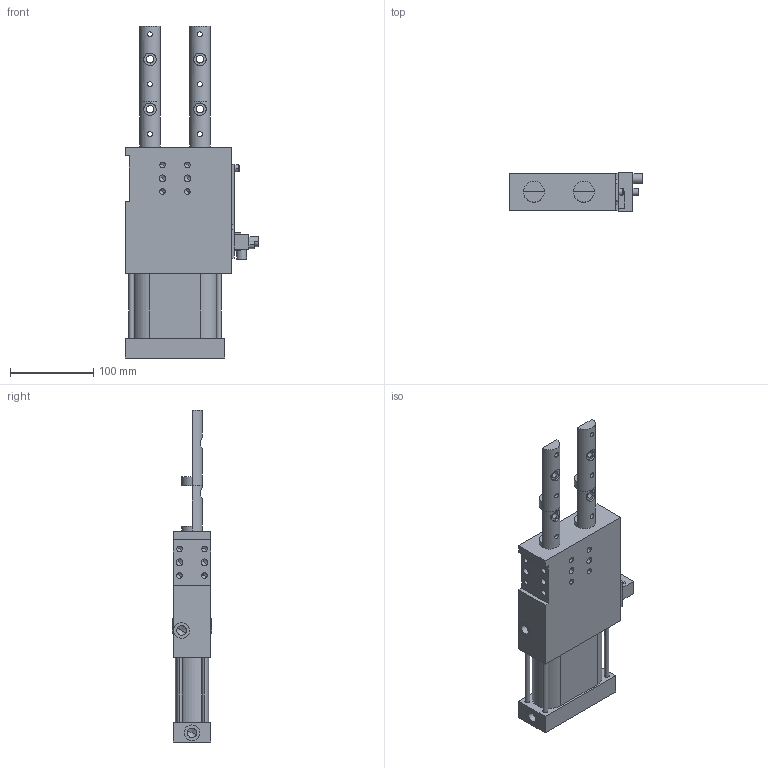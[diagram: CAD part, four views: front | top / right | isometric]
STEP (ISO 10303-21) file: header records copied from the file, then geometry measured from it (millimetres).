
FILE_DESCRIPTION(('CATIA V5 STEP Exchange'),'2;1');
FILE_NAME('C:\Users\huberm\Desktop\SZKD_63_5_BR3_60_A23_T12_TUENKERS.stp','2014-05-20T11:31:53+00:00',('none'),('none'),'CATIA Version 5 Release 19 SP 9 (IN-10)','CATIA V5 STEP AP203','none');
FILE_SCHEMA(('CONFIG_CONTROL_DESIGN'));
Length unit declared in the file: millimetre
Products named in the file (1): SZKD_63_5_BR3_60_A23_T12_TUENKERS
Bounding box: 161 x 47 x 399 mm (x, y, z)
Volume: 1378942.1 mm3; surface area: 133276.7 mm2
Topology: 1 solids, 1 shells, 223 faces, 538 edges, 314 vertices
Faces by surface type: cylinder 102, plane 75, cone 42, torus 4
Entity records: 5916 total; most frequent: CARTESIAN_POINT 1262, ORIENTED_EDGE 996, DIRECTION 750, EDGE_CURVE 498, AXIS2_PLACEMENT_3D 332, VERTEX_POINT 314, EDGE_LOOP 288, VECTOR 280
